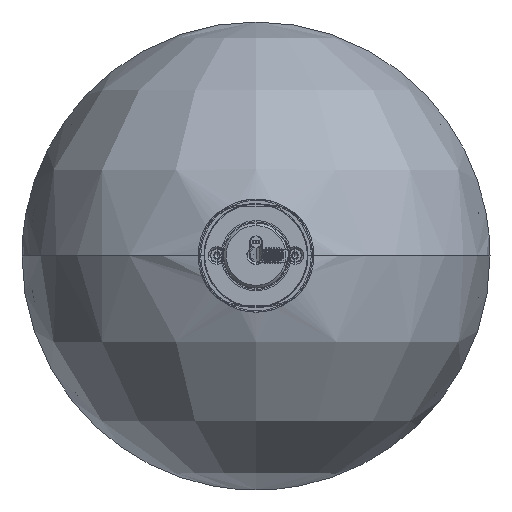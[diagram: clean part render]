
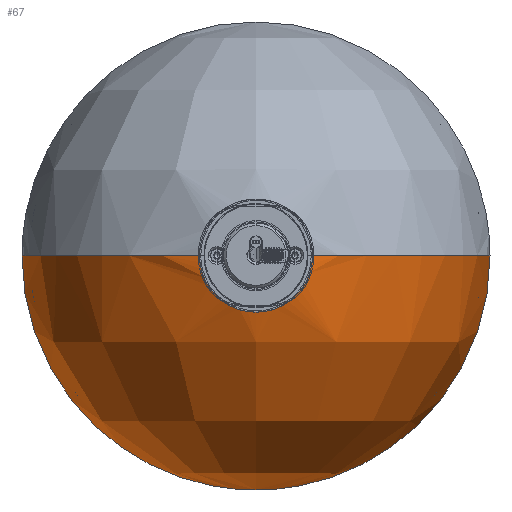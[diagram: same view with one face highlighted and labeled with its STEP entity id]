
A CAD part, top view. The second image highlights one B-rep face of the part: STEP entity #67.
In plain terms, the highlighted free-form (B-spline) face has degree [2, 2] with [5, 5] control points.
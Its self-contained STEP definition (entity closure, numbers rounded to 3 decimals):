
#67=ADVANCED_FACE('',(#267),#2845,.T.);
#267=FACE_OUTER_BOUND('',#467,.T.);
#467=EDGE_LOOP('',(#692,#693,#694,#695,#696));
#692=ORIENTED_EDGE('',*,*,#1620,.T.);
#693=ORIENTED_EDGE('',*,*,#1603,.F.);
#694=ORIENTED_EDGE('',*,*,#1602,.T.);
#695=ORIENTED_EDGE('',*,*,#1618,.T.);
#696=ORIENTED_EDGE('',*,*,#1600,.T.);
#1600=EDGE_CURVE('',#2510,#2524,#2247,.T.);
#1602=EDGE_CURVE('',#2512,#2509,#2249,.T.);
#1603=EDGE_CURVE('',#2512,#2508,#2250,.T.);
#1618=EDGE_CURVE('',#2509,#2510,#2263,.T.);
#1620=EDGE_CURVE('',#2524,#2508,#2265,.T.);
#2247=(
BOUNDED_CURVE()
B_SPLINE_CURVE(2,(#3382,#3383,#3384),.UNSPECIFIED.,.F.,.F.)
B_SPLINE_CURVE_WITH_KNOTS((3,3),(0.,119.919),.UNSPECIFIED.)
CURVE()
GEOMETRIC_REPRESENTATION_ITEM()
RATIONAL_B_SPLINE_CURVE((1.,0.786,1.))
REPRESENTATION_ITEM('')
);
#2249=(
BOUNDED_CURVE()
B_SPLINE_CURVE(2,(#3388,#3389,#3390),.UNSPECIFIED.,.F.,.F.)
B_SPLINE_CURVE_WITH_KNOTS((3,3),(141.372,261.291),
 .UNSPECIFIED.)
CURVE()
GEOMETRIC_REPRESENTATION_ITEM()
RATIONAL_B_SPLINE_CURVE((1.,0.786,1.))
REPRESENTATION_ITEM('')
);
#2250=(
BOUNDED_CURVE()
B_SPLINE_CURVE(2,(#3391,#3392,#3393),.UNSPECIFIED.,.F.,.F.)
B_SPLINE_CURVE_WITH_KNOTS((3,3),(141.372,282.743),
 .UNSPECIFIED.)
CURVE()
GEOMETRIC_REPRESENTATION_ITEM()
RATIONAL_B_SPLINE_CURVE((1.,0.707,1.))
REPRESENTATION_ITEM('')
);
#2263=(
BOUNDED_CURVE()
B_SPLINE_CURVE(2,(#3438,#3439,#3440,#3441,#3442),.UNSPECIFIED.,.F.,.F.)
B_SPLINE_CURVE_WITH_KNOTS((3,2,3),(-66.759,-33.379,
0.),.UNSPECIFIED.)
CURVE()
GEOMETRIC_REPRESENTATION_ITEM()
RATIONAL_B_SPLINE_CURVE((1.,0.707,1.,0.707,1.))
REPRESENTATION_ITEM('')
);
#2265=(
BOUNDED_CURVE()
B_SPLINE_CURVE(2,(#3448,#3449,#3450),.UNSPECIFIED.,.F.,.F.)
B_SPLINE_CURVE_WITH_KNOTS((3,3),(141.372,282.743),
 .UNSPECIFIED.)
CURVE()
GEOMETRIC_REPRESENTATION_ITEM()
RATIONAL_B_SPLINE_CURVE((1.,0.707,1.))
REPRESENTATION_ITEM('')
);
#2508=VERTEX_POINT('',#3364);
#2509=VERTEX_POINT('',#3365);
#2510=VERTEX_POINT('',#3366);
#2512=VERTEX_POINT('',#3368);
#2524=VERTEX_POINT('',#3380);
#2845=(
BOUNDED_SURFACE()
B_SPLINE_SURFACE(2,2,((#3127,#3128,#3129,#3130,#3131),(#3132,#3133,#3134,
#3135,#3136),(#3137,#3138,#3139,#3140,#3141),(#3142,#3143,#3144,#3145,#3146),
(#3147,#3148,#3149,#3150,#3151)),.UNSPECIFIED.,.F.,.F.,.F.)
B_SPLINE_SURFACE_WITH_KNOTS((3,2,3),(3,2,3),(0.,141.372,282.743),
(0.,141.372,282.743),.UNSPECIFIED.)
GEOMETRIC_REPRESENTATION_ITEM()
RATIONAL_B_SPLINE_SURFACE(((1.,0.707,1.,0.707,1.),
(0.707,0.5,0.707,0.5,0.707),(1.,0.707,
1.,0.707,1.),(0.707,0.5,0.707,0.5,0.707),
(1.,0.707,1.,0.707,1.)))
REPRESENTATION_ITEM('')
SURFACE()
);
#3127=CARTESIAN_POINT('',(0.,90.,22.04));
#3128=CARTESIAN_POINT('',(90.,90.,22.04));
#3129=CARTESIAN_POINT('',(90.,0.,22.04));
#3130=CARTESIAN_POINT('',(90.,-90.,22.04));
#3131=CARTESIAN_POINT('',(0.,-90.,22.04));
#3132=CARTESIAN_POINT('',(0.,90.,22.04));
#3133=CARTESIAN_POINT('',(90.,90.,112.04));
#3134=CARTESIAN_POINT('',(90.,0.,112.04));
#3135=CARTESIAN_POINT('',(90.,-90.,112.04));
#3136=CARTESIAN_POINT('',(0.,-90.,22.04));
#3137=CARTESIAN_POINT('',(0.,90.,22.04));
#3138=CARTESIAN_POINT('',(0.,90.,112.04));
#3139=CARTESIAN_POINT('',(0.,0.,112.04));
#3140=CARTESIAN_POINT('',(0.,-90.,112.04));
#3141=CARTESIAN_POINT('',(0.,-90.,22.04));
#3142=CARTESIAN_POINT('',(0.,90.,22.04));
#3143=CARTESIAN_POINT('',(-90.,90.,112.04));
#3144=CARTESIAN_POINT('',(-90.,0.,112.04));
#3145=CARTESIAN_POINT('',(-90.,-90.,112.04));
#3146=CARTESIAN_POINT('',(0.,-90.,22.04));
#3147=CARTESIAN_POINT('',(0.,90.,22.04));
#3148=CARTESIAN_POINT('',(-90.,90.,22.04));
#3149=CARTESIAN_POINT('',(-90.,0.,22.04));
#3150=CARTESIAN_POINT('',(-90.,-90.,22.04));
#3151=CARTESIAN_POINT('',(0.,-90.,22.04));
#3364=CARTESIAN_POINT('',(0.,-90.,22.04));
#3365=CARTESIAN_POINT('',(21.25,0.,109.495));
#3366=CARTESIAN_POINT('',(-21.25,0.,109.495));
#3368=CARTESIAN_POINT('',(90.,0.,22.04));
#3380=CARTESIAN_POINT('',(-90.,0.,22.04));
#3382=CARTESIAN_POINT('',(-21.25,0.,109.495));
#3383=CARTESIAN_POINT('',(-90.,0.,92.79));
#3384=CARTESIAN_POINT('',(-90.,0.,22.04));
#3388=CARTESIAN_POINT('',(90.,0.,22.04));
#3389=CARTESIAN_POINT('',(90.,0.,92.79));
#3390=CARTESIAN_POINT('',(21.25,0.,109.495));
#3391=CARTESIAN_POINT('',(90.,0.,22.04));
#3392=CARTESIAN_POINT('',(90.,-90.,22.04));
#3393=CARTESIAN_POINT('',(0.,-90.,22.04));
#3438=CARTESIAN_POINT('',(21.25,0.,109.495));
#3439=CARTESIAN_POINT('',(21.25,-21.25,109.495));
#3440=CARTESIAN_POINT('',(0.,-21.25,109.495));
#3441=CARTESIAN_POINT('',(-21.25,-21.25,109.495));
#3442=CARTESIAN_POINT('',(-21.25,0.,109.495));
#3448=CARTESIAN_POINT('',(-90.,0.,22.04));
#3449=CARTESIAN_POINT('',(-90.,-90.,22.04));
#3450=CARTESIAN_POINT('',(0.,-90.,22.04));
